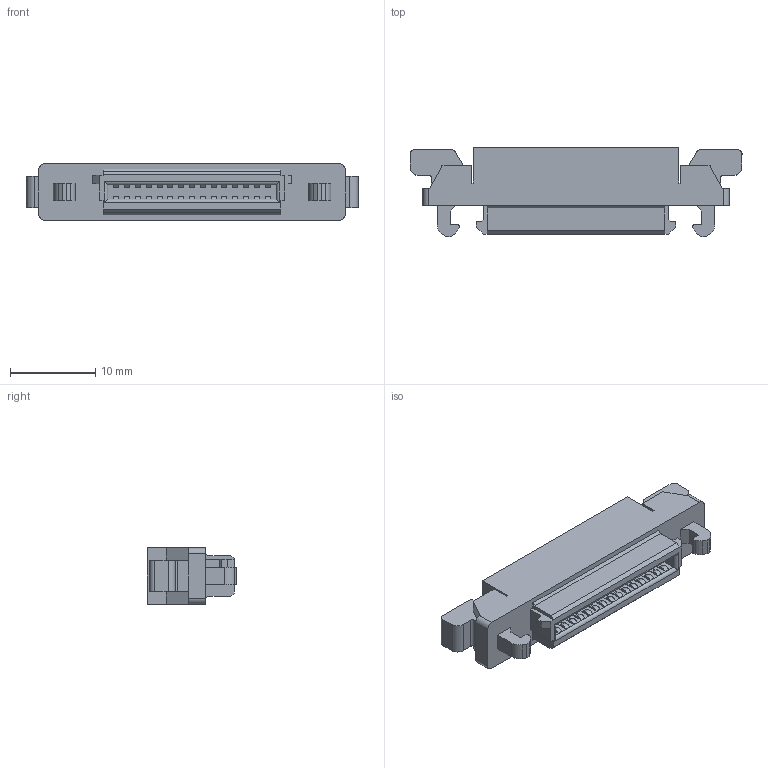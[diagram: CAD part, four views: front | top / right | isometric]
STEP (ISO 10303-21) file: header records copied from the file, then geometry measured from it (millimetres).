
FILE_DESCRIPTION(('CoCreate Modeling STEP Export'),'2;1');
FILE_NAME('P39478_8925R-030-179-F.stp','2018-01-15T10:54:15',(''),(''),'CoCreate Modeling STEP processor for AP214 (Solid Model)','CoCreate Modeling 17.0B 09-Oct-2010 (C) Parametric Technology GmbH','');
FILE_SCHEMA(('AUTOMOTIVE_DESIGN { 1 0 10303 214 1 1 1 1 }'));
Length unit declared in the file: millimetre
Products named in the file (2): 8925R-030-179-F
Assembly tree (1 placements, depth 2):
  8925R-030-179-F
    8925R-030-179-F
Bounding box: 38.99 x 10.5 x 6.6 mm (x, y, z)
Volume: 1770 mm3; surface area: 1508.3 mm2
Topology: 1 solids, 1 shells, 278 faces, 802 edges, 530 vertices
Faces by surface type: plane 194, cylinder 84
Entity records: 8906 total; most frequent: ORIENTED_EDGE 1604, CARTESIAN_POINT 1561, DIRECTION 1462, EDGE_CURVE 802, VECTOR 600, LINE 600, VERTEX_POINT 530, AXIS2_PLACEMENT_3D 431
